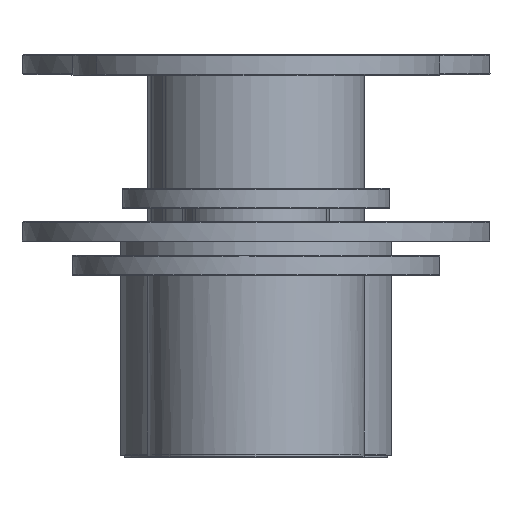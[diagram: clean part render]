
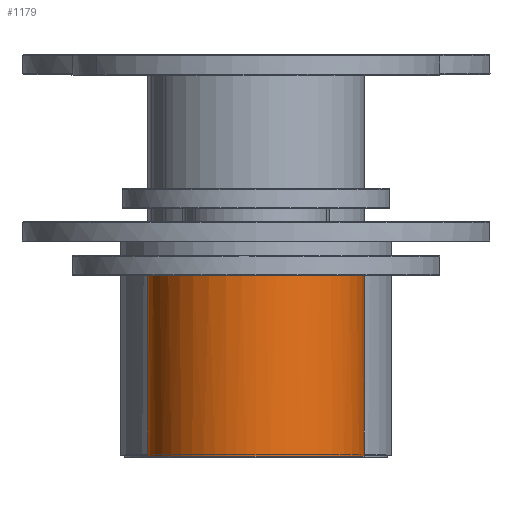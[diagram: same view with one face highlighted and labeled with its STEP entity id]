
A CAD part, left-side view. The second image highlights one B-rep face of the part: STEP entity #1179.
In plain terms, the highlighted free-form (B-spline) face has degree [3, 1] with [7, 2] control points.
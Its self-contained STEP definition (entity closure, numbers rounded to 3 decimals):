
#1132 = CARTESIAN_POINT ('', (-4812., 0., 272.));
#1133 = VERTEX_POINT ('', #1132);
#1134 = CARTESIAN_POINT ('', (-4812., 0., 272.));
#1135 = CARTESIAN_POINT ('', (-4812., 324., 272.));
#1136 = CARTESIAN_POINT ('', (-4488., 324., 272.));
#1137 = CARTESIAN_POINT ('', (-4488., 0., 272.));
#1138 = CARTESIAN_POINT ('', (-4488., -324., 272.));
#1139 = CARTESIAN_POINT ('', (-4812., -324., 272.));
#1140 = CARTESIAN_POINT ('', (-4812., 0., 272.));
#1141 = (
   BOUNDED_CURVE ()
   B_SPLINE_CURVE (3, (#1134, #1135, #1136, #1137, #1138, #1139, #1140), .UNSPECIFIED., .T., .U.)
   B_SPLINE_CURVE_WITH_KNOTS ((4, 3, 4), (0., 0.5, 1.), .UNSPECIFIED.)
   CURVE ()
   GEOMETRIC_REPRESENTATION_ITEM ()
   RATIONAL_B_SPLINE_CURVE ((1., 0.333, 0.333, 1., 0.333, 0.333, 1.))
   REPRESENTATION_ITEM ('')
);
#1142 = EDGE_CURVE ('', #1133, #1133, #1141, .T.);
#1143 = ORIENTED_EDGE ('', *, *, #1142, .T.);
#1144 = CARTESIAN_POINT ('', (-4812., 0., 2.));
#1145 = VERTEX_POINT ('', #1144);
#1146 = CARTESIAN_POINT ('', (-4812., 0., 272.));
#1147 = CARTESIAN_POINT ('', (-4812., 0., 2.));
#1148 = B_SPLINE_CURVE_WITH_KNOTS ('', 1, (#1146, #1147), .UNSPECIFIED., .F., .U., (2, 2), (0., 1.), .UNSPECIFIED.);
#1149 = EDGE_CURVE ('', #1133, #1145, #1148, .T.);
#1150 = ORIENTED_EDGE ('', *, *, #1149, .T.);
#1151 = CARTESIAN_POINT ('', (-4812., 0., 2.));
#1152 = CARTESIAN_POINT ('', (-4812., -324., 2.));
#1153 = CARTESIAN_POINT ('', (-4488., -324., 2.));
#1154 = CARTESIAN_POINT ('', (-4488., 0., 2.));
#1155 = CARTESIAN_POINT ('', (-4488., 324., 2.));
#1156 = CARTESIAN_POINT ('', (-4812., 324., 2.));
#1157 = CARTESIAN_POINT ('', (-4812., 0., 2.));
#1158 = (
   BOUNDED_CURVE ()
   B_SPLINE_CURVE (3, (#1151, #1152, #1153, #1154, #1155, #1156, #1157), .UNSPECIFIED., .T., .U.)
   B_SPLINE_CURVE_WITH_KNOTS ((4, 3, 4), (0., 0.5, 1.), .UNSPECIFIED.)
   CURVE ()
   GEOMETRIC_REPRESENTATION_ITEM ()
   RATIONAL_B_SPLINE_CURVE ((1., 0.333, 0.333, 1., 0.333, 0.333, 1.))
   REPRESENTATION_ITEM ('')
);
#1159 = EDGE_CURVE ('', #1145, #1145, #1158, .T.);
#1160 = ORIENTED_EDGE ('', *, *, #1159, .T.);
#1161 = ORIENTED_EDGE ('', *, *, #1149, .F.);
#1162 = EDGE_LOOP ('', (#1143, #1150, #1160, #1161));
#1163 = FACE_OUTER_BOUND ('', #1162, .T.);
#1164 = CARTESIAN_POINT ('', (-4812., 0., 272.));
#1165 = CARTESIAN_POINT ('', (-4812., 0., 2.));
#1166 = CARTESIAN_POINT ('', (-4812., 324., 272.));
#1167 = CARTESIAN_POINT ('', (-4812., 324., 2.));
#1168 = CARTESIAN_POINT ('', (-4488., 324., 272.));
#1169 = CARTESIAN_POINT ('', (-4488., 324., 2.));
#1170 = CARTESIAN_POINT ('', (-4488., 0., 272.));
#1171 = CARTESIAN_POINT ('', (-4488., 0., 2.));
#1172 = CARTESIAN_POINT ('', (-4488., -324., 272.));
#1173 = CARTESIAN_POINT ('', (-4488., -324., 2.));
#1174 = CARTESIAN_POINT ('', (-4812., -324., 272.));
#1175 = CARTESIAN_POINT ('', (-4812., -324., 2.));
#1176 = CARTESIAN_POINT ('', (-4812., 0., 272.));
#1177 = CARTESIAN_POINT ('', (-4812., 0., 2.));
#1178 = (
   BOUNDED_SURFACE ()
   B_SPLINE_SURFACE (3, 1, ((#1164, #1165), (#1166, #1167), (#1168, #1169), (#1170, #1171), (#1172, #1173), (#1174, #1175), (#1176, #1177)), .UNSPECIFIED., .T., .F., .U.)
   B_SPLINE_SURFACE_WITH_KNOTS ((4, 3, 4), (2, 2), (0., 0.5, 1.), (0., 1.), .UNSPECIFIED.)
   SURFACE ()
   GEOMETRIC_REPRESENTATION_ITEM ()
   RATIONAL_B_SPLINE_SURFACE (((1., 1.), (0.333, 0.333), (0.333, 0.333), (1., 1.), (0.333, 0.333), (0.333, 0.333), (1., 1.)))
   REPRESENTATION_ITEM ('')
);
#1179 = ADVANCED_FACE ('', (#1163), #1178, .T.);
